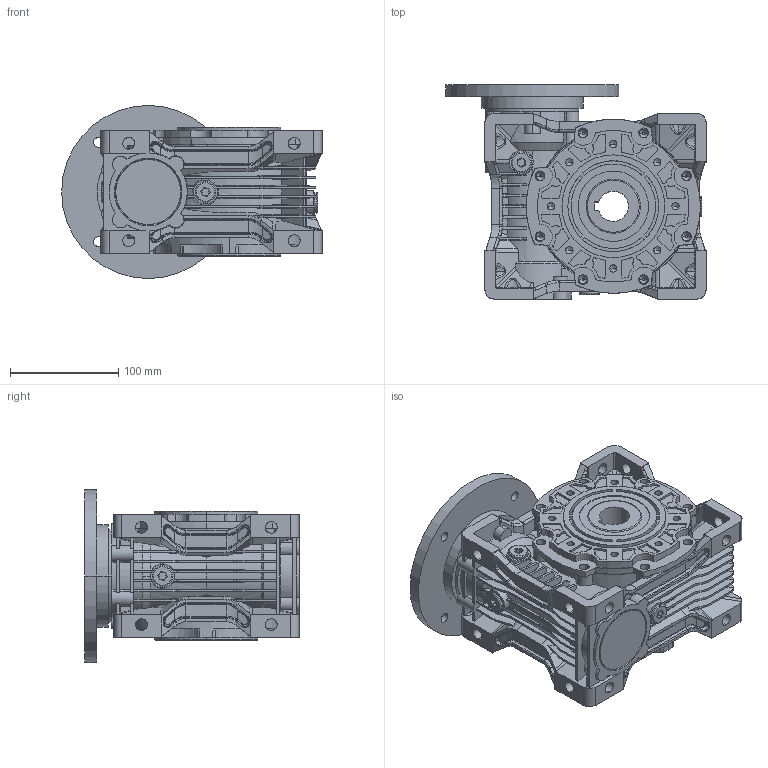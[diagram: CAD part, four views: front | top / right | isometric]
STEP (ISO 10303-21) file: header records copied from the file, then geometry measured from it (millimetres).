
FILE_DESCRIPTION (( 'STEP AP203' ), '1' );
FILE_NAME ('NMRV75-100B14.STEP', '2018-11-30T07:27:59', ( '微软中国' ), ( '微软中国' ), 'SwSTEP 2.0', 'SolidWorks 2016', '' );
FILE_SCHEMA (( 'CONFIG_CONTROL_DESIGN' ));
Products named in the file (1): NMRV75-100B14
Bounding box: 241 x 198.5 x 160 mm (x, y, z)
Volume: 1768733.7 mm3; surface area: 487681.2 mm2
Topology: 7 solids, 8 shells, 2959 faces, 8165 edges, 5257 vertices
Faces by surface type: cylinder 1194, plane 1034, bspline 386, cone 319, torus 26
Entity records: 136272 total; most frequent: CARTESIAN_POINT 69848, ORIENTED_EDGE 16224, DIRECTION 10514, EDGE_CURVE 8112, VERTEX_POINT 5257, AXIS2_PLACEMENT_3D 3794, B_SPLINE_CURVE_WITH_KNOTS 3606, EDGE_LOOP 3109
